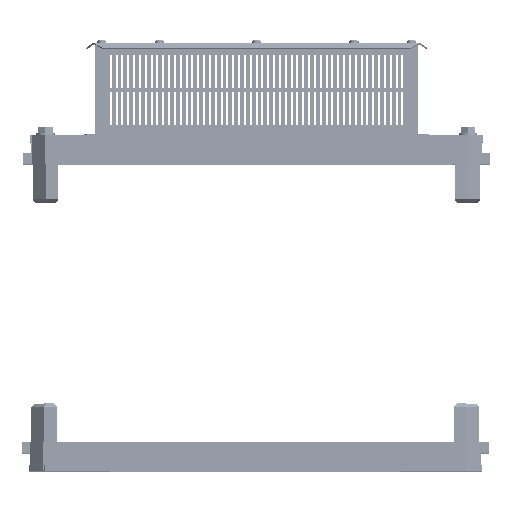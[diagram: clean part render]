
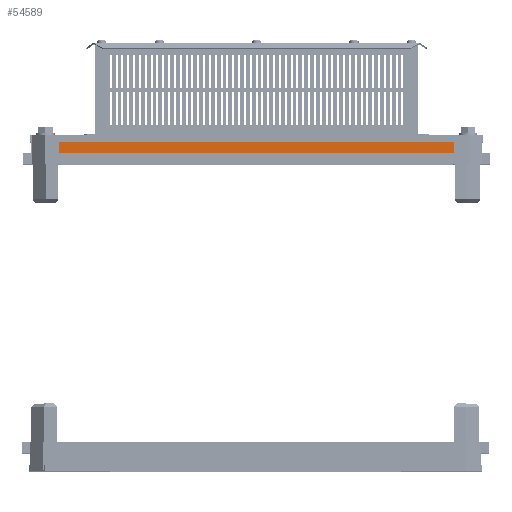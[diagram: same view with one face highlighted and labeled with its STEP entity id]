
A CAD part, top view. The second image highlights one B-rep face of the part: STEP entity #54589.
In plain terms, the highlighted planar face has unit normal (0, 0, 1).
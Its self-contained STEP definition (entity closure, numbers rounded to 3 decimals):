
#232 = ORIENTED_EDGE ( 'NONE', *, *, #120485, .F. ) ;
#8399 = ORIENTED_EDGE ( 'NONE', *, *, #127931, .T. ) ;
#14585 = CARTESIAN_POINT ( 'NONE',  ( -554., -140.5, -10.5 ) ) ;
#32909 = ORIENTED_EDGE ( 'NONE', *, *, #186005, .F. ) ;
#33293 = DIRECTION ( 'NONE',  ( 0., 1., 0. ) ) ;
#33953 = VECTOR ( 'NONE', #122823, 1000. ) ;
#36794 = VERTEX_POINT ( 'NONE', #62452 ) ;
#40759 = CARTESIAN_POINT ( 'NONE',  ( -554., -140.5, -10.5 ) ) ;
#43162 = EDGE_LOOP ( 'NONE', ( #8399, #255181, #32909, #232 ) ) ;
#51556 = LINE ( 'NONE', #190801, #145464 ) ;
#54589 = ADVANCED_FACE ( 'NONE', ( #159230 ), #215226, .F. ) ;
#57897 = LINE ( 'NONE', #137324, #137423 ) ;
#62452 = CARTESIAN_POINT ( 'NONE',  ( -46., -141.8, -10.5 ) ) ;
#88208 = VERTEX_POINT ( 'NONE', #220609 ) ;
#113488 = LINE ( 'NONE', #14585, #190348 ) ;
#120485 = EDGE_CURVE ( 'NONE', #36794, #88208, #57897, .T. ) ;
#122823 = DIRECTION ( 'NONE',  ( 1., 0., 0. ) ) ;
#127931 = EDGE_CURVE ( 'NONE', #36794, #158102, #51556, .T. ) ;
#137324 = CARTESIAN_POINT ( 'NONE',  ( -554., -141.8, -10.5 ) ) ;
#137423 = VECTOR ( 'NONE', #216668, 1000. ) ;
#140426 = DIRECTION ( 'NONE',  ( 0., 1., 0. ) ) ;
#145464 = VECTOR ( 'NONE', #33293, 1000. ) ;
#155204 = EDGE_CURVE ( 'NONE', #175672, #158102, #181410, .T. ) ;
#158102 = VERTEX_POINT ( 'NONE', #227578 ) ;
#159230 = FACE_OUTER_BOUND ( 'NONE', #43162, .T. ) ;
#175672 = VERTEX_POINT ( 'NONE', #224975 ) ;
#178733 = DIRECTION ( 'NONE',  ( 0., -1., 0. ) ) ;
#181410 = LINE ( 'NONE', #204754, #33953 ) ;
#186005 = EDGE_CURVE ( 'NONE', #88208, #175672, #113488, .T. ) ;
#190348 = VECTOR ( 'NONE', #140426, 1000. ) ;
#190801 = CARTESIAN_POINT ( 'NONE',  ( -46., -140.5, -10.5 ) ) ;
#198241 = DIRECTION ( 'NONE',  ( 0., 0., -1. ) ) ;
#204754 = CARTESIAN_POINT ( 'NONE',  ( -554., -119.3, -10.5 ) ) ;
#215226 = PLANE ( 'NONE',  #229625 ) ;
#216668 = DIRECTION ( 'NONE',  ( -1., 0., 0. ) ) ;
#220609 = CARTESIAN_POINT ( 'NONE',  ( -554., -141.8, -10.5 ) ) ;
#224975 = CARTESIAN_POINT ( 'NONE',  ( -554., -119.3, -10.5 ) ) ;
#227578 = CARTESIAN_POINT ( 'NONE',  ( -46., -119.3, -10.5 ) ) ;
#229625 = AXIS2_PLACEMENT_3D ( 'NONE', #40759, #198241, #178733 ) ;
#255181 = ORIENTED_EDGE ( 'NONE', *, *, #155204, .F. ) ;
